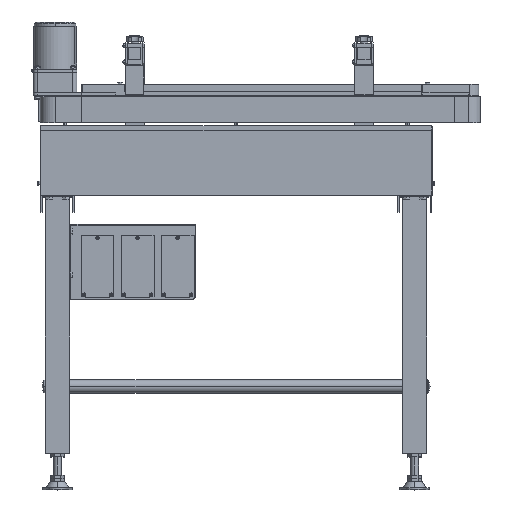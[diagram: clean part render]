
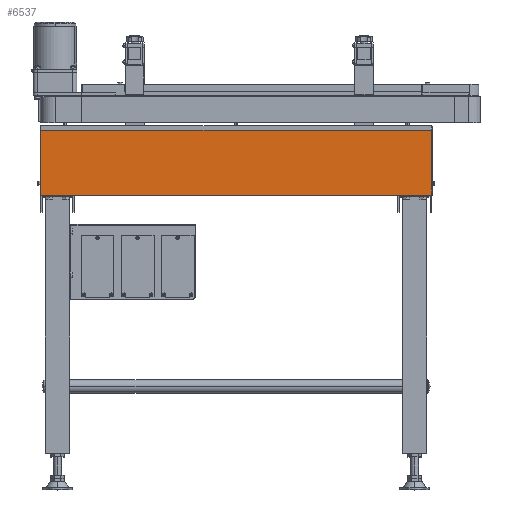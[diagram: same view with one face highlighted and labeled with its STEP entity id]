
A CAD part, top view. The second image highlights one B-rep face of the part: STEP entity #6537.
In plain terms, the highlighted planar face has unit normal (0, 0, 1).
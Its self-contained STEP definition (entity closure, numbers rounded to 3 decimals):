
#6537=ADVANCED_FACE('',(#38738),#38737,.F.);
#38737=PLANE('',#58824);
#38738=FACE_OUTER_BOUND('',#58825,.T.);
#58821=CARTESIAN_POINT('',(-10.,-150.,300.));
#58822=DIRECTION('',(0.,0.,-1.));
#58823=DIRECTION('',(0.,1.,0.));
#58824=AXIS2_PLACEMENT_3D('',#58821,#58822,#58823);
#58825=EDGE_LOOP('',(#74765,#74766,#74767,#74768));
#74765=ORIENTED_EDGE('',*,*,#83076,.F.);
#74766=ORIENTED_EDGE('',*,*,#82770,.T.);
#74767=ORIENTED_EDGE('',*,*,#83103,.T.);
#74768=ORIENTED_EDGE('',*,*,#83104,.F.);
#82770=EDGE_CURVE('',#133171,#133172,#133173,.T.);
#83076=EDGE_CURVE('',#133171,#135206,#135207,.T.);
#83103=EDGE_CURVE('',#133172,#135386,#135387,.T.);
#83104=EDGE_CURVE('',#135206,#135386,#135393,.T.);
#133171=VERTEX_POINT('',#167010);
#133172=VERTEX_POINT('',#167011);
#133173=LINE('',#167012,#167013);
#135206=VERTEX_POINT('',#168127);
#135207=LINE('',#168128,#168129);
#135386=VERTEX_POINT('',#168226);
#135387=LINE('',#168227,#168228);
#135393=LINE('',#168230,#168231);
#167010=CARTESIAN_POINT('',(810.,-6.,300.));
#167011=CARTESIAN_POINT('',(0.,-6.,300.));
#167012=CARTESIAN_POINT('',(810.,-6.,300.));
#167013=VECTOR('',#167014,810.);
#167014=DIRECTION('',(-1.,0.,0.));
#168127=CARTESIAN_POINT('',(810.,-140.,300.));
#168128=CARTESIAN_POINT('',(810.,-6.,300.));
#168129=VECTOR('',#168130,134.);
#168130=DIRECTION('',(0.,-1.,0.));
#168226=CARTESIAN_POINT('',(0.,-140.,300.));
#168227=CARTESIAN_POINT('',(0.,-6.,300.));
#168228=VECTOR('',#168229,134.);
#168229=DIRECTION('',(0.,-1.,0.));
#168230=CARTESIAN_POINT('',(810.,-140.,300.));
#168231=VECTOR('',#168232,810.);
#168232=DIRECTION('',(-1.,0.,0.));
